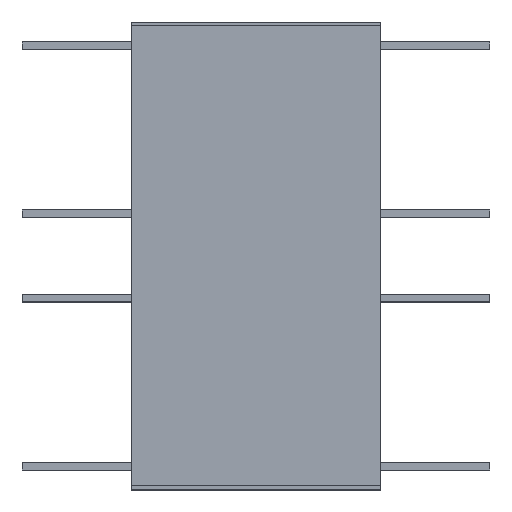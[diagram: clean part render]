
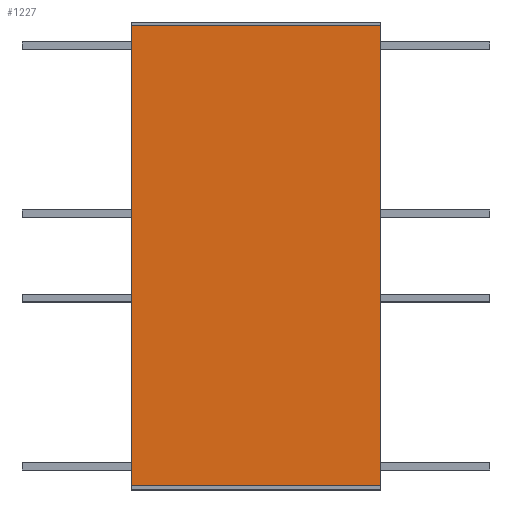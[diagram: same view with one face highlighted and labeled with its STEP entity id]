
A CAD part, top view. The second image highlights one B-rep face of the part: STEP entity #1227.
In plain terms, the highlighted planar face has unit normal (0, 0, -1).
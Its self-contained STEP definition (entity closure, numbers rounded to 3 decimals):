
#123=FACE_OUTER_BOUND('',#195,.T.);
#195=EDGE_LOOP('',(#1070,#1071,#1072,#1073));
#337=LINE('',#1951,#495);
#342=LINE('',#1962,#500);
#344=LINE('',#1965,#502);
#345=LINE('',#1966,#503);
#495=VECTOR('',#1613,10.);
#500=VECTOR('',#1622,10.);
#502=VECTOR('',#1626,10.);
#503=VECTOR('',#1627,10.);
#608=VERTEX_POINT('',#1944);
#611=VERTEX_POINT('',#1949);
#614=VERTEX_POINT('',#1959);
#615=VERTEX_POINT('',#1961);
#765=EDGE_CURVE('',#608,#611,#337,.T.);
#770=EDGE_CURVE('',#614,#615,#342,.T.);
#772=EDGE_CURVE('',#614,#608,#344,.T.);
#773=EDGE_CURVE('',#611,#615,#345,.T.);
#1070=ORIENTED_EDGE('',*,*,#772,.T.);
#1071=ORIENTED_EDGE('',*,*,#765,.T.);
#1072=ORIENTED_EDGE('',*,*,#773,.T.);
#1073=ORIENTED_EDGE('',*,*,#770,.F.);
#1155=PLANE('',#1331);
#1227=ADVANCED_FACE('',(#123),#1155,.F.);
#1331=AXIS2_PLACEMENT_3D('',#1964,#1624,#1625);
#1613=DIRECTION('',(1.,0.,0.));
#1622=DIRECTION('',(1.,0.,0.));
#1624=DIRECTION('center_axis',(0.,0.,1.));
#1625=DIRECTION('ref_axis',(0.,-1.,0.));
#1626=DIRECTION('',(0.,1.,0.));
#1627=DIRECTION('',(0.,-1.,0.));
#1944=CARTESIAN_POINT('',(0.,147.5,46.5));
#1949=CARTESIAN_POINT('',(160.,147.5,46.5));
#1951=CARTESIAN_POINT('',(0.,147.5,46.5));
#1959=CARTESIAN_POINT('',(0.,-147.5,46.5));
#1961=CARTESIAN_POINT('',(160.,-147.5,46.5));
#1962=CARTESIAN_POINT('',(0.,-147.5,46.5));
#1964=CARTESIAN_POINT('Origin',(0.,147.5,46.5));
#1965=CARTESIAN_POINT('',(0.,-147.5,46.5));
#1966=CARTESIAN_POINT('',(160.,-147.5,46.5));
